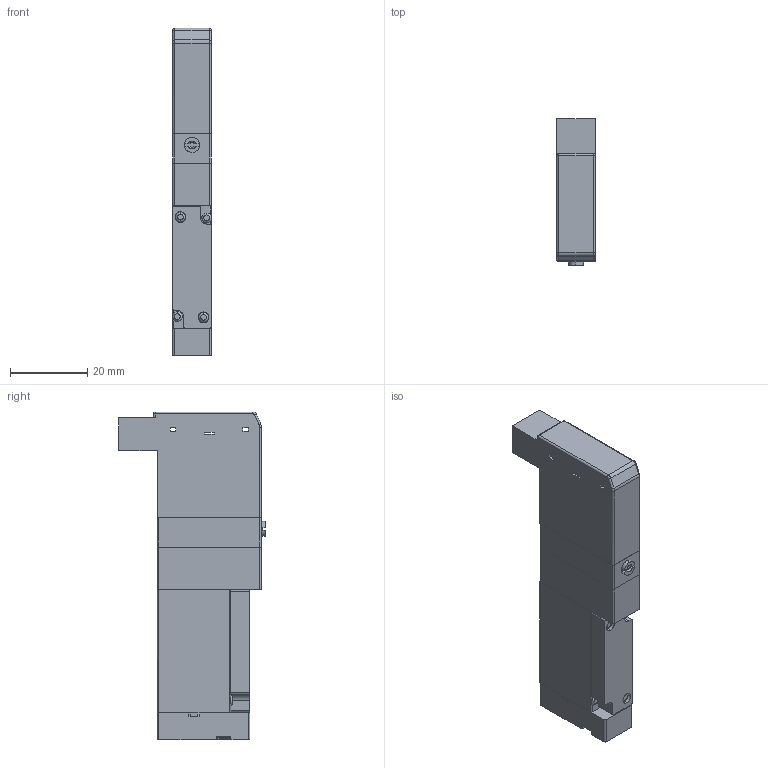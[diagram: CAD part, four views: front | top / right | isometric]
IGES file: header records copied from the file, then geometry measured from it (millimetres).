
Start section: ------------------------------------------------------------------------
Global section: file name: D:\ICADMX\tmp\trans3d_spg\CVICAD02.18204.F10T0-A1_8337.igs; native system: spGate; preprocessor: ver12.6.6; author: Unknown; organization: Unknown; date: 200901.142314; units: millimetre
Bounding box: 10.2 x 38 x 85 mm (x, y, z)
Volume: 22249.7 mm3; surface area: 9999.5 mm2
Topology: 6 solids, 6 shells, 177 faces, 436 edges, 282 vertices
Faces by surface type: bspline 177
